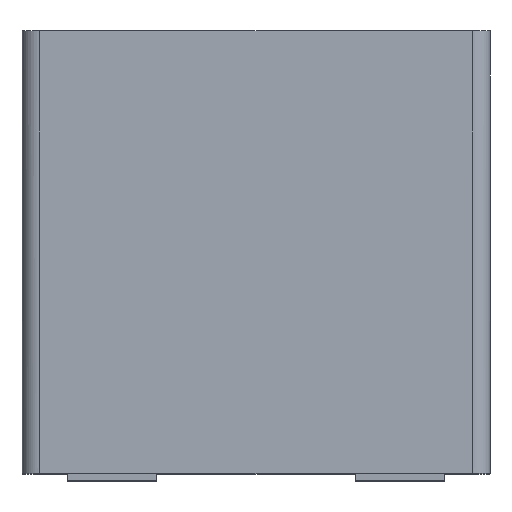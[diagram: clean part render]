
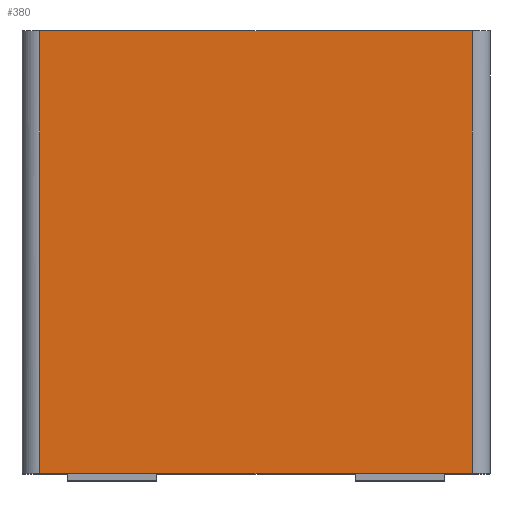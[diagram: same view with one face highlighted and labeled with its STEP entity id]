
A CAD part, top view. The second image highlights one B-rep face of the part: STEP entity #380.
In plain terms, the highlighted planar face has unit normal (0, 0, 1).
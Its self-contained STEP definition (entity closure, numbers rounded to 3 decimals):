
#24 = VECTOR ( 'NONE', #624, 1000. ) ;
#50 = DIRECTION ( 'NONE',  ( 1., 0., 0. ) ) ;
#109 = FACE_OUTER_BOUND ( 'NONE', #838, .T. ) ;
#167 = VECTOR ( 'NONE', #50, 1000. ) ;
#190 = LINE ( 'NONE', #544, #24 ) ;
#279 = VERTEX_POINT ( 'NONE', #496 ) ;
#281 = CARTESIAN_POINT ( 'NONE',  ( -3.28, 0., 3.38 ) ) ;
#289 = VERTEX_POINT ( 'NONE', #863 ) ;
#303 = ORIENTED_EDGE ( 'NONE', *, *, #762, .F. ) ;
#304 = CARTESIAN_POINT ( 'NONE',  ( -3.03, 6., 3.38 ) ) ;
#345 = CARTESIAN_POINT ( 'NONE',  ( -3.28, 6., 3.38 ) ) ;
#380 = ADVANCED_FACE ( 'NONE', ( #109 ), #600, .F. ) ;
#387 = DIRECTION ( 'NONE',  ( 0., 1., 0. ) ) ;
#423 = ORIENTED_EDGE ( 'NONE', *, *, #691, .F. ) ;
#424 = DIRECTION ( 'NONE',  ( -1., 0., 0. ) ) ;
#430 = CARTESIAN_POINT ( 'NONE',  ( -3.03, 0., 3.38 ) ) ;
#490 = EDGE_CURVE ( 'NONE', #279, #621, #701, .T. ) ;
#496 = CARTESIAN_POINT ( 'NONE',  ( 3.03, 0., 3.38 ) ) ;
#543 = CARTESIAN_POINT ( 'NONE',  ( -3.03, 6.199, 3.38 ) ) ;
#544 = CARTESIAN_POINT ( 'NONE',  ( 3.03, 6., 3.38 ) ) ;
#565 = LINE ( 'NONE', #304, #569 ) ;
#569 = VECTOR ( 'NONE', #387, 1000. ) ;
#585 = EDGE_CURVE ( 'NONE', #289, #279, #190, .T. ) ;
#600 = PLANE ( 'NONE',  #840 ) ;
#617 = DIRECTION ( 'NONE',  ( 0., 0., -1. ) ) ;
#621 = VERTEX_POINT ( 'NONE', #430 ) ;
#624 = DIRECTION ( 'NONE',  ( 0., -1., 0. ) ) ;
#625 = ORIENTED_EDGE ( 'NONE', *, *, #585, .F. ) ;
#691 = EDGE_CURVE ( 'NONE', #906, #289, #696, .T. ) ;
#692 = VECTOR ( 'NONE', #835, 1000. ) ;
#696 = LINE ( 'NONE', #901, #167 ) ;
#701 = LINE ( 'NONE', #281, #692 ) ;
#762 = EDGE_CURVE ( 'NONE', #621, #906, #565, .T. ) ;
#774 = ORIENTED_EDGE ( 'NONE', *, *, #490, .F. ) ;
#835 = DIRECTION ( 'NONE',  ( -1., 0., 0. ) ) ;
#838 = EDGE_LOOP ( 'NONE', ( #625, #423, #303, #774 ) ) ;
#840 = AXIS2_PLACEMENT_3D ( 'NONE', #345, #617, #424 ) ;
#863 = CARTESIAN_POINT ( 'NONE',  ( 3.03, 6.199, 3.38 ) ) ;
#901 = CARTESIAN_POINT ( 'NONE',  ( -3.03, 6.199, 3.38 ) ) ;
#906 = VERTEX_POINT ( 'NONE', #543 ) ;
